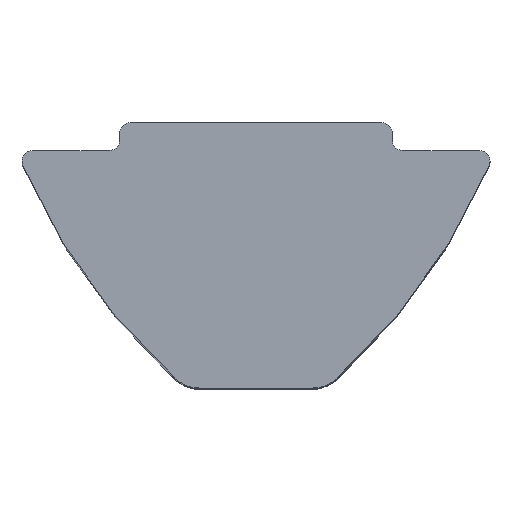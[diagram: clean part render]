
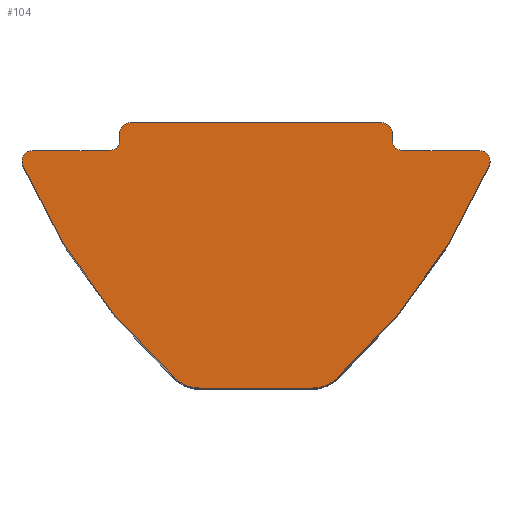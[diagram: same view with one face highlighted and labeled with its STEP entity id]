
A CAD part, top view. The second image highlights one B-rep face of the part: STEP entity #104.
In plain terms, the highlighted planar face has unit normal (0, 0, 1).
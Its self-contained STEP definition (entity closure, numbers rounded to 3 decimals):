
#104=ADVANCED_FACE('NONE',(#212),#213,.T.);
#212=FACE_OUTER_BOUND('',#320,.T.);
#213=PLANE('',#321);
#320=EDGE_LOOP('',(#576,#577,#578,#579,#580,#581,#582,#583,#584,#585,#586,#587,#588,#589,#590,#591,#592,#593));
#321=AXIS2_PLACEMENT_3D('',#594,#595,#596);
#576=ORIENTED_EDGE('',*,*,#676,.T.);
#577=ORIENTED_EDGE('',*,*,#767,.T.);
#578=ORIENTED_EDGE('',*,*,#782,.T.);
#579=ORIENTED_EDGE('',*,*,#719,.T.);
#580=ORIENTED_EDGE('',*,*,#701,.T.);
#581=ORIENTED_EDGE('',*,*,#783,.T.);
#582=ORIENTED_EDGE('',*,*,#780,.T.);
#583=ORIENTED_EDGE('',*,*,#784,.T.);
#584=ORIENTED_EDGE('',*,*,#725,.T.);
#585=ORIENTED_EDGE('',*,*,#730,.T.);
#586=ORIENTED_EDGE('',*,*,#752,.T.);
#587=ORIENTED_EDGE('',*,*,#775,.T.);
#588=ORIENTED_EDGE('',*,*,#785,.T.);
#589=ORIENTED_EDGE('',*,*,#786,.T.);
#590=ORIENTED_EDGE('',*,*,#734,.T.);
#591=ORIENTED_EDGE('',*,*,#787,.T.);
#592=ORIENTED_EDGE('',*,*,#756,.T.);
#593=ORIENTED_EDGE('',*,*,#770,.T.);
#594=CARTESIAN_POINT('',(-6.4,-1.1,22.0));
#595=DIRECTION('',(0.0,0.0,1.0));
#596=DIRECTION('',(1.0,-0.0,0.0));
#676=EDGE_CURVE('NONE',#808,#806,#809,.T.);
#701=EDGE_CURVE('NONE',#838,#850,#852,.T.);
#719=EDGE_CURVE('NONE',#880,#838,#881,.T.);
#725=EDGE_CURVE('NONE',#888,#889,#890,.T.);
#730=EDGE_CURVE('NONE',#889,#897,#898,.T.);
#734=EDGE_CURVE('NONE',#903,#904,#905,.T.);
#752=EDGE_CURVE('NONE',#897,#933,#934,.T.);
#756=EDGE_CURVE('NONE',#939,#937,#940,.T.);
#767=EDGE_CURVE('NONE',#806,#951,#953,.T.);
#770=EDGE_CURVE('NONE',#937,#808,#956,.T.);
#775=EDGE_CURVE('NONE',#933,#961,#962,.T.);
#780=EDGE_CURVE('NONE',#965,#967,#969,.T.);
#782=EDGE_CURVE('NONE',#951,#880,#971,.T.);
#783=EDGE_CURVE('NONE',#850,#965,#972,.T.);
#784=EDGE_CURVE('NONE',#967,#888,#973,.T.);
#785=EDGE_CURVE('NONE',#961,#974,#975,.T.);
#786=EDGE_CURVE('NONE',#974,#903,#976,.T.);
#787=EDGE_CURVE('NONE',#904,#939,#977,.T.);
#806=VERTEX_POINT('NONE',#1006);
#808=VERTEX_POINT('NONE',#1009);
#809=CIRCLE('',#1010,17.5);
#838=VERTEX_POINT('NONE',#1069);
#850=VERTEX_POINT('NONE',#1098);
#852=CIRCLE('',#1101,17.5);
#880=VERTEX_POINT('NONE',#1151);
#881=CIRCLE('',#1152,1.0);
#888=VERTEX_POINT('NONE',#1166);
#889=VERTEX_POINT('NONE',#1167);
#890=CIRCLE('',#1168,0.3);
#897=VERTEX_POINT('NONE',#1177);
#898=LINE('',#1178,#1179);
#903=VERTEX_POINT('NONE',#1186);
#904=VERTEX_POINT('NONE',#1187);
#905=CIRCLE('',#1188,0.3);
#933=VERTEX_POINT('NONE',#1223);
#934=CIRCLE('',#1224,0.3);
#937=VERTEX_POINT('NONE',#1228);
#939=VERTEX_POINT('NONE',#1231);
#940=CIRCLE('',#1232,0.3);
#951=VERTEX_POINT('NONE',#1250);
#953=CIRCLE('',#1253,1.0);
#956=CIRCLE('',#1256,0.3);
#961=VERTEX_POINT('NONE',#1263);
#962=LINE('',#1264,#1265);
#965=VERTEX_POINT('',#1269);
#967=VERTEX_POINT('NONE',#1272);
#969=CIRCLE('',#1275,0.3);
#971=LINE('',#1277,#1278);
#972=CIRCLE('',#1279,0.3);
#973=LINE('',#1280,#1281);
#974=VERTEX_POINT('NONE',#1282);
#975=CIRCLE('',#1283,0.3);
#976=LINE('',#1284,#1285);
#977=LINE('',#1286,#1287);
#1006=CARTESIAN_POINT('',(-2.292,-7.343,22.0));
#1009=CARTESIAN_POINT('',(-6.676,-1.218,22.0));
#1010=AXIS2_PLACEMENT_3D('',#1304,#1305,#1306);
#1069=CARTESIAN_POINT('',(2.292,-7.343,22.0));
#1098=CARTESIAN_POINT('',(6.676,-1.218,22.0));
#1101=AXIS2_PLACEMENT_3D('',#1331,#1332,#1333);
#1151=CARTESIAN_POINT('',(1.623,-7.6,22.0));
#1152=AXIS2_PLACEMENT_3D('',#1357,#1358,#1359);
#1166=CARTESIAN_POINT('',(4.2,-0.8,22.0));
#1167=CARTESIAN_POINT('',(3.9,-0.5,22.0));
#1168=AXIS2_PLACEMENT_3D('',#1362,#1363,#1364);
#1177=CARTESIAN_POINT('',(3.9,-0.3,22.0));
#1178=CARTESIAN_POINT('',(3.9,0.,22.0));
#1179=VECTOR('',#1370,1000.0);
#1186=CARTESIAN_POINT('',(-3.9,-0.5,22.0));
#1187=CARTESIAN_POINT('',(-4.2,-0.8,22.0));
#1188=AXIS2_PLACEMENT_3D('',#1373,#1374,#1375);
#1223=CARTESIAN_POINT('',(3.6,0.,22.0));
#1224=AXIS2_PLACEMENT_3D('',#1407,#1408,#1409);
#1228=CARTESIAN_POINT('',(-6.7,-1.1,22.0));
#1231=CARTESIAN_POINT('',(-6.4,-0.8,22.0));
#1232=AXIS2_PLACEMENT_3D('',#1412,#1413,#1414);
#1250=CARTESIAN_POINT('',(-1.623,-7.6,22.0));
#1253=AXIS2_PLACEMENT_3D('',#1427,#1428,#1429);
#1256=AXIS2_PLACEMENT_3D('',#1430,#1431,#1432);
#1263=CARTESIAN_POINT('',(-3.6,0.,22.0));
#1264=CARTESIAN_POINT('',(3.9,0.,22.0));
#1265=VECTOR('',#1435,1000.0);
#1269=CARTESIAN_POINT('',(6.7,-1.1,22.0));
#1272=CARTESIAN_POINT('',(6.4,-0.8,22.0));
#1275=AXIS2_PLACEMENT_3D('',#1439,#1440,#1441);
#1277=CARTESIAN_POINT('',(-2.0,-7.6,22.0));
#1278=VECTOR('',#1442,1000.0);
#1279=AXIS2_PLACEMENT_3D('',#1443,#1444,#1445);
#1280=CARTESIAN_POINT('',(3.9,-0.8,22.0));
#1281=VECTOR('',#1446,1000.0);
#1282=CARTESIAN_POINT('',(-3.9,-0.3,22.0));
#1283=AXIS2_PLACEMENT_3D('',#1447,#1448,#1449);
#1284=CARTESIAN_POINT('',(-3.9,0.,22.0));
#1285=VECTOR('',#1450,1000.0);
#1286=CARTESIAN_POINT('',(-3.9,-0.8,22.0));
#1287=VECTOR('',#1451,1000.0);
#1304=CARTESIAN_POINT('',(9.413,5.666,22.0));
#1305=DIRECTION('',(0.0,0.0,1.0));
#1306=DIRECTION('',(1.0,0.0,0.0));
#1331=CARTESIAN_POINT('',(-9.413,5.666,22.0));
#1332=DIRECTION('',(0.0,0.0,1.0));
#1333=DIRECTION('',(-1.0,0.0,0.0));
#1357=CARTESIAN_POINT('',(1.623,-6.6,22.0));
#1358=DIRECTION('',(0.0,0.0,1.0));
#1359=DIRECTION('',(1.0,0.0,0.0));
#1362=CARTESIAN_POINT('',(4.2,-0.5,22.0));
#1363=DIRECTION('',(0.0,0.0,-1.0));
#1364=DIRECTION('',(1.0,0.0,0.0));
#1370=DIRECTION('',(-0.0,1.0,-0.0));
#1373=CARTESIAN_POINT('',(-4.2,-0.5,22.0));
#1374=DIRECTION('',(0.0,0.0,-1.0));
#1375=DIRECTION('',(1.0,0.0,0.0));
#1407=CARTESIAN_POINT('',(3.6,-0.3,22.0));
#1408=DIRECTION('',(0.0,0.0,1.0));
#1409=DIRECTION('',(1.0,0.0,0.0));
#1412=CARTESIAN_POINT('',(-6.4,-1.1,22.0));
#1413=DIRECTION('',(0.0,0.0,1.0));
#1414=DIRECTION('',(1.0,0.0,0.0));
#1427=CARTESIAN_POINT('',(-1.623,-6.6,22.0));
#1428=DIRECTION('',(0.0,0.0,1.0));
#1429=DIRECTION('',(1.0,0.0,0.0));
#1430=CARTESIAN_POINT('',(-6.4,-1.1,22.0));
#1431=DIRECTION('',(0.0,0.0,1.0));
#1432=DIRECTION('',(1.0,0.0,0.0));
#1435=DIRECTION('',(-1.0,0.,0.0));
#1439=CARTESIAN_POINT('',(6.4,-1.1,22.0));
#1440=DIRECTION('',(0.0,0.0,1.0));
#1441=DIRECTION('',(-1.0,0.0,0.0));
#1442=DIRECTION('',(1.0,0.,0.0));
#1443=CARTESIAN_POINT('',(6.4,-1.1,22.0));
#1444=DIRECTION('',(0.0,0.0,1.0));
#1445=DIRECTION('',(-1.0,0.0,0.0));
#1446=DIRECTION('',(-1.0,0.,-0.0));
#1447=CARTESIAN_POINT('',(-3.6,-0.3,22.0));
#1448=DIRECTION('',(0.0,0.0,1.0));
#1449=DIRECTION('',(1.0,0.0,0.0));
#1450=DIRECTION('',(0.0,-1.0,0.0));
#1451=DIRECTION('',(-1.0,0.,0.0));
